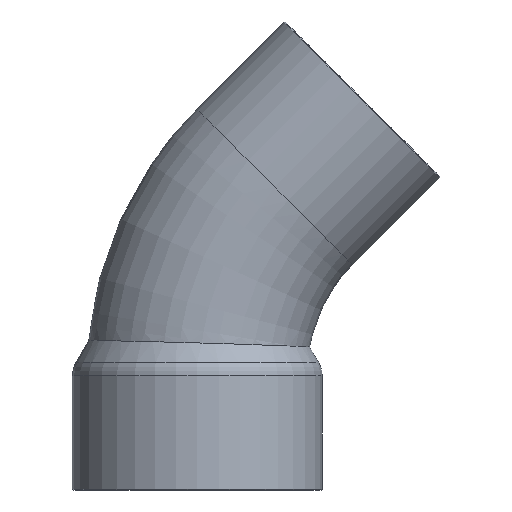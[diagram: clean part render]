
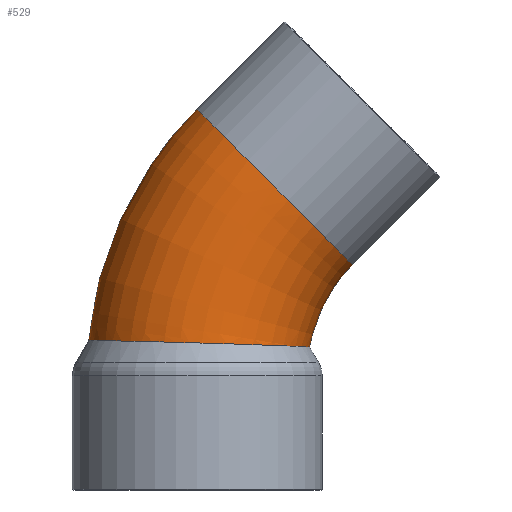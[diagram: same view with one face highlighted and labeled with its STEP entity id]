
A CAD part, left-side view. The second image highlights one B-rep face of the part: STEP entity #529.
In plain terms, the highlighted toroidal (fillet/blend) face has major radius 64.8 mm and minor radius 26.985 mm.
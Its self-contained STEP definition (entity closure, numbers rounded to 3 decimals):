
#184=CARTESIAN_POINT('',(26.985,45.821,45.821));
#185=VERTEX_POINT('',#184);
#186=CARTESIAN_POINT('',(0.0,45.821,45.821));
#187=DIRECTION('',(0.0,0.707,-0.707));
#188=DIRECTION('',(-1.0,0.0,0.0));
#189=AXIS2_PLACEMENT_3D('',#186,#187,#188);
#190=CIRCLE('',#189,26.985);
#191=EDGE_CURVE('',#185,#185,#190,.T.);
#380=CARTESIAN_POINT('',(0.,91.418,8.2));
#381=VERTEX_POINT('',#380);
#382=CARTESIAN_POINT('',(0.,91.418,8.2));
#383=CARTESIAN_POINT('',(-3.591,91.418,8.2));
#384=CARTESIAN_POINT('',(-7.146,90.7,8.186));
#385=CARTESIAN_POINT('',(-13.744,87.92,8.129));
#386=CARTESIAN_POINT('',(-16.725,85.895,8.087));
#387=CARTESIAN_POINT('',(-21.73,80.801,7.975));
#388=CARTESIAN_POINT('',(-23.703,77.781,7.906));
#389=CARTESIAN_POINT('',(-26.366,71.146,7.743));
#390=CARTESIAN_POINT('',(-27.028,67.594,7.65));
#391=CARTESIAN_POINT('',(-26.938,60.424,7.446));
#392=CARTESIAN_POINT('',(-26.181,56.876,7.336));
#393=CARTESIAN_POINT('',(-23.37,50.365,7.115));
#394=CARTESIAN_POINT('',(-21.375,47.449,7.006));
#395=CARTESIAN_POINT('',(-16.64,42.786,6.819));
#396=CARTESIAN_POINT('',(-14.03,40.985,6.741));
#397=CARTESIAN_POINT('',(-8.914,38.644,6.635));
#398=CARTESIAN_POINT('',(-6.527,37.929,6.601));
#399=CARTESIAN_POINT('',(-2.616,37.327,6.573));
#400=CARTESIAN_POINT('',(-1.14,37.224,6.568));
#401=CARTESIAN_POINT('',(1.872,37.262,6.569));
#402=CARTESIAN_POINT('',(3.403,37.413,6.577));
#403=CARTESIAN_POINT('',(7.772,38.227,6.615));
#404=CARTESIAN_POINT('',(10.526,39.222,6.662));
#405=CARTESIAN_POINT('',(16.189,42.376,6.801));
#406=CARTESIAN_POINT('',(18.934,44.717,6.899));
#407=CARTESIAN_POINT('',(23.259,50.202,7.108));
#408=CARTESIAN_POINT('',(24.849,53.257,7.216));
#409=CARTESIAN_POINT('',(26.787,59.7,7.423));
#410=CARTESIAN_POINT('',(27.154,63.023,7.522));
#411=CARTESIAN_POINT('',(26.674,69.624,7.704));
#412=CARTESIAN_POINT('',(25.835,72.848,7.786));
#413=CARTESIAN_POINT('',(23.023,78.868,7.931));
#414=CARTESIAN_POINT('',(21.061,81.607,7.993));
#415=CARTESIAN_POINT('',(16.193,86.274,8.095));
#416=CARTESIAN_POINT('',(13.313,88.144,8.133));
#417=CARTESIAN_POINT('',(6.934,90.742,8.186));
#418=CARTESIAN_POINT('',(3.484,91.418,8.2));
#419=CARTESIAN_POINT('',(0.0,91.418,8.2));
#420=B_SPLINE_CURVE_WITH_KNOTS('',3,(#382,#383,#384,#385,#386,#387,#388,#389,#390,#391,#392,#393,#394,#395,#396,#397,#398,#399,#400,#401,#402,#403,#404,#405,#406,#407,#408,#409,#410,#411,#412,#413,#414,#415,#416,#417,#418,#419),.UNSPECIFIED.,.T.,.U.,(4,2,2,2,2,2,2,2,2,2,2,2,2,2,2,2,2,2,4),(-17.037,-15.96,-14.889,-13.818,-12.744,-11.666,-10.616,-9.671,-8.928,-8.484,-8.024,-7.151,-6.079,-5.055,-4.06,-3.068,-2.066,-1.045,0.0),.UNSPECIFIED.);
#421=EDGE_CURVE('',#381,#381,#420,.T.);
#518=CARTESIAN_POINT('',(0.0,0.0,0.0));
#519=DIRECTION('',(1.0,0.0,0.0));
#520=DIRECTION('',(0.0,0.0,-1.0));
#521=AXIS2_PLACEMENT_3D('',#518,#519,#520);
#522=TOROIDAL_SURFACE('',#521,64.8,26.985);
#523=ORIENTED_EDGE('',*,*,#191,.T.);
#524=EDGE_LOOP('',(#523));
#525=FACE_OUTER_BOUND('',#524,.T.);
#526=ORIENTED_EDGE('',*,*,#421,.T.);
#527=EDGE_LOOP('',(#526));
#528=FACE_BOUND('',#527,.T.);
#529=ADVANCED_FACE('',(#525,#528),#522,.T.);
